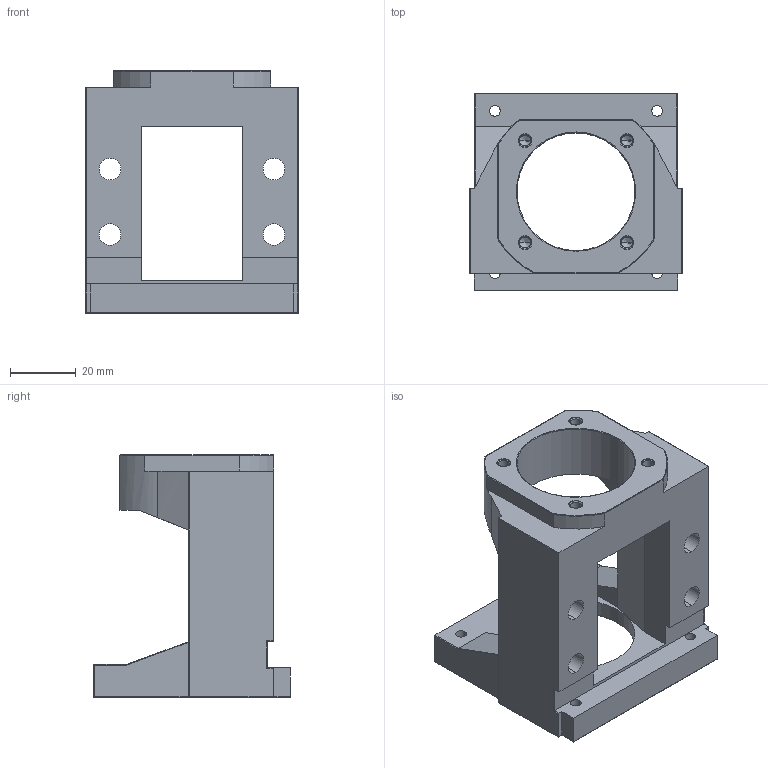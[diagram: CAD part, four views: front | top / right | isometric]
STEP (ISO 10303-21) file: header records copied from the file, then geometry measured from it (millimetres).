
FILE_DESCRIPTION (( 'STEP AP203' ), '1' );
FILE_NAME ('MBA12-DP.STEP', '2017-12-28T05:57:16', ( '' ), ( '' ), 'SwSTEP 2.0', 'SolidWorks 2017', '' );
FILE_SCHEMA (( 'CONFIG_CONTROL_DESIGN' ));
Length unit declared in the file: millimetre
Products named in the file (1): MBA12-DP
Bounding box: 65 x 60 x 74 mm (x, y, z)
Volume: 85416.9 mm3; surface area: 27041.5 mm2
Topology: 1 solids, 1 shells, 189 faces, 452 edges, 258 vertices
Faces by surface type: cylinder 84, plane 43, torus 30, cone 24, sphere 6, bspline 2
Entity records: 5475 total; most frequent: CARTESIAN_POINT 1044, DIRECTION 966, ORIENTED_EDGE 876, EDGE_CURVE 438, AXIS2_PLACEMENT_3D 376, VERTEX_POINT 258, EDGE_LOOP 218, LINE 214
